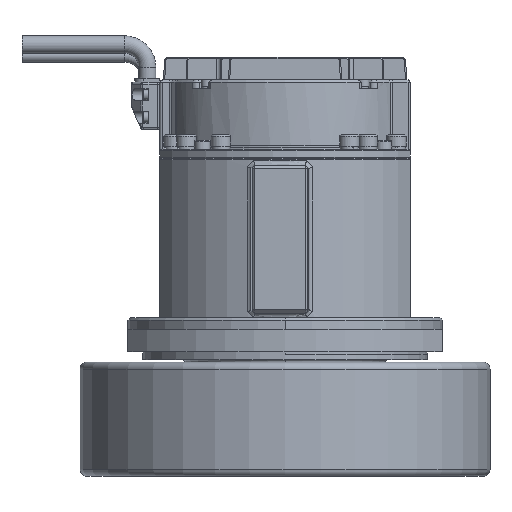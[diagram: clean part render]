
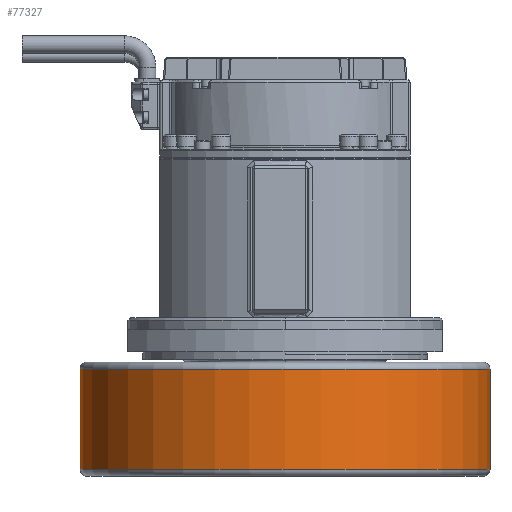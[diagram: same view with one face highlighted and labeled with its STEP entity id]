
A CAD part, left-side view. The second image highlights one B-rep face of the part: STEP entity #77327.
In plain terms, the highlighted cylindrical face has radius 90 mm (diameter 180 mm), a partial arc.
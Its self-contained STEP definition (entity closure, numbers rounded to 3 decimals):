
#6732 = DIRECTION ( 'NONE',  ( 0., -1., 0. ) ) ;
#7286 = LINE ( 'NONE', #26016, #22595 ) ;
#9955 = CARTESIAN_POINT ( 'NONE',  ( 0., -90., -178.197 ) ) ;
#15014 = DIRECTION ( 'NONE',  ( 0., 0., 1. ) ) ;
#17305 = CARTESIAN_POINT ( 'NONE',  ( 0., 90., -178.197 ) ) ;
#18436 = ORIENTED_EDGE ( 'NONE', *, *, #27480, .T. ) ;
#19231 = DIRECTION ( 'NONE',  ( 0., 0., -1. ) ) ;
#19374 = FACE_OUTER_BOUND ( 'NONE', #49511, .T. ) ;
#19634 = CARTESIAN_POINT ( 'NONE',  ( 0., 90., -222.197 ) ) ;
#22595 = VECTOR ( 'NONE', #19231, 1000. ) ;
#25016 = DIRECTION ( 'NONE',  ( 0., 0., -1. ) ) ;
#25395 = ORIENTED_EDGE ( 'NONE', *, *, #31320, .F. ) ;
#26016 = CARTESIAN_POINT ( 'NONE',  ( 0., 90., -178.197 ) ) ;
#26980 = CARTESIAN_POINT ( 'NONE',  ( 0., 0., -178.197 ) ) ;
#27480 = EDGE_CURVE ( 'NONE', #50821, #36199, #7286, .T. ) ;
#27767 = DIRECTION ( 'NONE',  ( 0., 1., 0. ) ) ;
#29281 = EDGE_CURVE ( 'NONE', #40247, #36199, #31952, .T. ) ;
#29402 = AXIS2_PLACEMENT_3D ( 'NONE', #56566, #61355, #6732 ) ;
#31320 = EDGE_CURVE ( 'NONE', #50821, #67958, #61620, .T. ) ;
#31952 = CIRCLE ( 'NONE', #29402, 90. ) ;
#34068 = CARTESIAN_POINT ( 'NONE',  ( 0., -90., -178.197 ) ) ;
#35463 = CARTESIAN_POINT ( 'NONE',  ( 0., -90., -222.197 ) ) ;
#36199 = VERTEX_POINT ( 'NONE', #19634 ) ;
#40247 = VERTEX_POINT ( 'NONE', #35463 ) ;
#43719 = DIRECTION ( 'NONE',  ( 0., 1., 0. ) ) ;
#45099 = AXIS2_PLACEMENT_3D ( 'NONE', #75235, #25016, #43719 ) ;
#49511 = EDGE_LOOP ( 'NONE', ( #70436, #25395, #18436, #69917 ) ) ;
#50821 = VERTEX_POINT ( 'NONE', #17305 ) ;
#52713 = AXIS2_PLACEMENT_3D ( 'NONE', #26980, #15014, #27767 ) ;
#54963 = EDGE_CURVE ( 'NONE', #67958, #40247, #69792, .T. ) ;
#56566 = CARTESIAN_POINT ( 'NONE',  ( 0., 0., -222.197 ) ) ;
#59420 = DIRECTION ( 'NONE',  ( 0., 0., -1. ) ) ;
#61319 = VECTOR ( 'NONE', #59420, 1000. ) ;
#61355 = DIRECTION ( 'NONE',  ( 0., 0., -1. ) ) ;
#61620 = CIRCLE ( 'NONE', #52713, 90. ) ;
#67958 = VERTEX_POINT ( 'NONE', #34068 ) ;
#69792 = LINE ( 'NONE', #9955, #61319 ) ;
#69917 = ORIENTED_EDGE ( 'NONE', *, *, #29281, .F. ) ;
#70436 = ORIENTED_EDGE ( 'NONE', *, *, #54963, .F. ) ;
#74048 = CYLINDRICAL_SURFACE ( 'NONE', #45099, 90. ) ;
#75235 = CARTESIAN_POINT ( 'NONE',  ( 0., 0., -175.197 ) ) ;
#77327 = ADVANCED_FACE ( 'NONE', ( #19374 ), #74048, .T. ) ;
